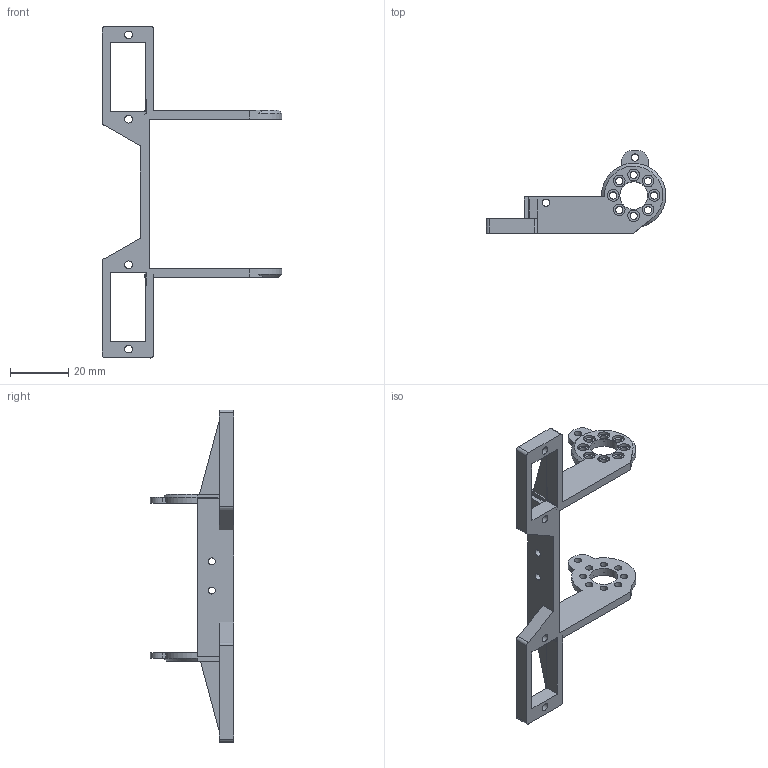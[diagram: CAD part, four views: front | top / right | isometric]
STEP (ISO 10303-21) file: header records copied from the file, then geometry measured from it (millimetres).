
FILE_DESCRIPTION(/* description */ (''),/* implementation_level */ '2;1');
FILE_NAME(/* name */ 'C:/Users/priba/Downloads/GripperBodyC.step',/* time_stamp */ '2021-11-07T19:07:49+01:00',/* author */ (''),/* organization */ (''),/* preprocessor_version */ 'ST-DEVELOPER v18.1',/* originating_system */ 'Autodesk Translation Framework v10.10.0.1391',/* authorisation */ '');
FILE_SCHEMA (('AUTOMOTIVE_DESIGN { 1 0 10303 214 3 1 1 }'));
Length unit declared in the file: millimetre
Products named in the file (1): GripperBodyC
Bounding box: 61.46 x 28.5 x 113.63 mm (x, y, z)
Volume: 9200.2 mm3; surface area: 9306.9 mm2
Topology: 3 solids, 3 shells, 158 faces, 405 edges, 268 vertices
Faces by surface type: plane 98, cylinder 58, cone 2
Full cylindrical faces by diameter (mm): 2.4 x2, 2.5 x20, 2.7 x4, 4 x16, 9.5 x2
Entity records: 4941 total; most frequent: CARTESIAN_POINT 840, DIRECTION 839, ORIENTED_EDGE 810, EDGE_CURVE 405, LINE 281, VECTOR 281, AXIS2_PLACEMENT_3D 279, VERTEX_POINT 268
